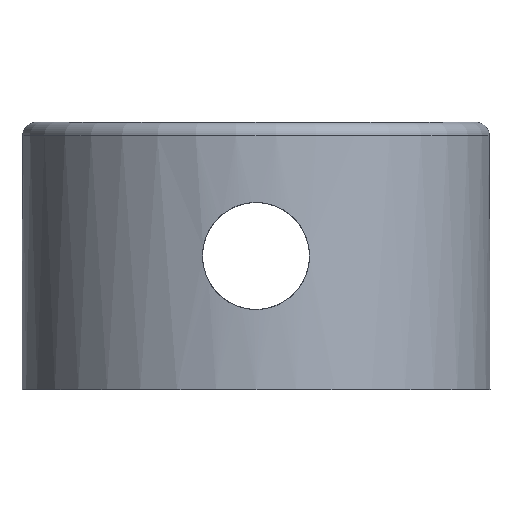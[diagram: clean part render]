
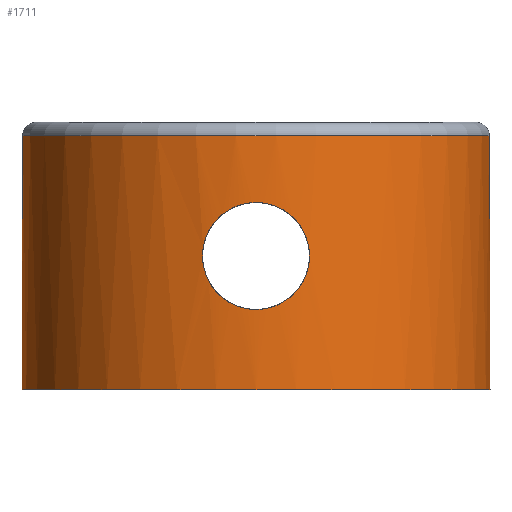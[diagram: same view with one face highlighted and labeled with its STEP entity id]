
A CAD part, front view. The second image highlights one B-rep face of the part: STEP entity #1711.
In plain terms, the highlighted cylindrical face has radius 35 mm (diameter 70 mm), a partial arc.
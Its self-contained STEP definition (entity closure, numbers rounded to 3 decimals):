
#49=FACE_BOUND('',#557,.T.);
#94=CYLINDRICAL_SURFACE('',#1883,35.);
#323=B_SPLINE_CURVE_WITH_KNOTS('',3,(#4069,#4070,#4071,#4072,#4073,#4074,
#4075,#4076,#4077,#4078),.UNSPECIFIED.,.F.,.F.,(4,1,1,1,1,1,1,4),(-18.584,
-17.897,-17.211,-16.524,-15.837,
-15.151,-14.464,-14.103),.UNSPECIFIED.);
#324=B_SPLINE_CURVE_WITH_KNOTS('',3,(#4081,#4082,#4083,#4084,#4085,#4086,
#4087,#4088,#4089,#4090),.UNSPECIFIED.,.F.,.F.,(4,1,1,1,1,1,1,4),(-18.258,
-17.897,-17.211,-16.524,-15.837,
-15.151,-14.464,-13.778),.UNSPECIFIED.);
#325=B_SPLINE_CURVE_WITH_KNOTS('',3,(#4093,#4094,#4095,#4096,#4097,#4098,
#4099,#4100,#4101,#4102,#4103,#4104,#4105,#4106,#4107,#4108,#4109,#4110),
 .UNSPECIFIED.,.F.,.F.,(4,2,2,2,2,2,2,2,4),(0.,0.303,0.605,
0.908,1.21,1.513,1.815,2.118,
2.42),.UNSPECIFIED.);
#326=B_SPLINE_CURVE_WITH_KNOTS('',3,(#4111,#4112,#4113,#4114,#4115,#4116,
#4117,#4118,#4119,#4120,#4121,#4122,#4123,#4124,#4125,#4126,#4127,#4128),
 .UNSPECIFIED.,.F.,.F.,(4,2,2,2,2,2,2,2,4),(2.42,2.723,
3.025,3.328,3.63,3.933,4.235,
4.538,4.84),.UNSPECIFIED.);
#436=FACE_OUTER_BOUND('',#556,.T.);
#556=EDGE_LOOP('',(#1414,#1415,#1416,#1417));
#557=EDGE_LOOP('',(#1418,#1419));
#697=CIRCLE('',#1880,35.);
#700=CIRCLE('',#1884,35.);
#838=VERTEX_POINT('',#4004);
#839=VERTEX_POINT('',#4006);
#841=VERTEX_POINT('',#4068);
#842=VERTEX_POINT('',#4079);
#843=VERTEX_POINT('',#4091);
#844=VERTEX_POINT('',#4092);
#1042=EDGE_CURVE('',#838,#839,#697,.T.);
#1049=EDGE_CURVE('',#841,#838,#323,.T.);
#1050=EDGE_CURVE('',#842,#841,#700,.T.);
#1051=EDGE_CURVE('',#839,#842,#324,.T.);
#1052=EDGE_CURVE('',#843,#844,#325,.T.);
#1053=EDGE_CURVE('',#844,#843,#326,.T.);
#1414=ORIENTED_EDGE('',*,*,#1042,.F.);
#1415=ORIENTED_EDGE('',*,*,#1049,.F.);
#1416=ORIENTED_EDGE('',*,*,#1050,.F.);
#1417=ORIENTED_EDGE('',*,*,#1051,.F.);
#1418=ORIENTED_EDGE('',*,*,#1052,.T.);
#1419=ORIENTED_EDGE('',*,*,#1053,.T.);
#1711=ADVANCED_FACE('',(#436,#49),#94,.T.);
#1880=AXIS2_PLACEMENT_3D('',#4007,#2192,#2193);
#1883=AXIS2_PLACEMENT_3D('',#4067,#2198,#2199);
#1884=AXIS2_PLACEMENT_3D('',#4080,#2200,#2201);
#2192=DIRECTION('center_axis',(0.,0.,1.));
#2193=DIRECTION('ref_axis',(0.,-1.,0.));
#2198=DIRECTION('center_axis',(0.,0.,1.));
#2199=DIRECTION('ref_axis',(0.,-1.,0.));
#2200=DIRECTION('center_axis',(0.,0.,-1.));
#2201=DIRECTION('ref_axis',(1.,0.,0.));
#4004=CARTESIAN_POINT('',(-15.181,31.536,18.));
#4006=CARTESIAN_POINT('',(15.181,31.536,18.));
#4007=CARTESIAN_POINT('Origin',(0.,0.,18.));
#4067=CARTESIAN_POINT('Origin',(0.,0.,0.));
#4068=CARTESIAN_POINT('',(-13.125,32.446,-20.));
#4069=CARTESIAN_POINT('Ctrl Pts',(-13.125,32.446,-20.));
#4070=CARTESIAN_POINT('Ctrl Pts',(-14.649,31.829,-18.694));
#4071=CARTESIAN_POINT('Ctrl Pts',(-17.367,30.478,-15.654));
#4072=CARTESIAN_POINT('Ctrl Pts',(-20.315,28.548,-10.03));
#4073=CARTESIAN_POINT('Ctrl Pts',(-21.941,27.272,-3.49));
#4074=CARTESIAN_POINT('Ctrl Pts',(-21.942,27.27,3.491));
#4075=CARTESIAN_POINT('Ctrl Pts',(-20.316,28.548,10.029));
#4076=CARTESIAN_POINT('Ctrl Pts',(-17.834,30.172,14.764));
#4077=CARTESIAN_POINT('Ctrl Pts',(-15.897,31.192,17.211));
#4078=CARTESIAN_POINT('Ctrl Pts',(-15.181,31.536,18.));
#4079=CARTESIAN_POINT('',(13.125,32.446,-20.));
#4080=CARTESIAN_POINT('Origin',(0.,0.,-20.));
#4081=CARTESIAN_POINT('Ctrl Pts',(15.181,31.536,18.));
#4082=CARTESIAN_POINT('Ctrl Pts',(15.897,31.192,17.211));
#4083=CARTESIAN_POINT('Ctrl Pts',(17.834,30.173,14.764));
#4084=CARTESIAN_POINT('Ctrl Pts',(20.315,28.548,10.03));
#4085=CARTESIAN_POINT('Ctrl Pts',(21.941,27.272,3.49));
#4086=CARTESIAN_POINT('Ctrl Pts',(21.942,27.27,-3.491));
#4087=CARTESIAN_POINT('Ctrl Pts',(20.316,28.548,-10.029));
#4088=CARTESIAN_POINT('Ctrl Pts',(17.367,30.478,-15.654));
#4089=CARTESIAN_POINT('Ctrl Pts',(14.649,31.829,-18.694));
#4090=CARTESIAN_POINT('Ctrl Pts',(13.125,32.446,-20.));
#4091=CARTESIAN_POINT('',(8.,-34.073,0.));
#4092=CARTESIAN_POINT('',(-8.,-34.073,0.));
#4093=CARTESIAN_POINT('Ctrl Pts',(8.,-34.073,0.));
#4094=CARTESIAN_POINT('Ctrl Pts',(8.,-34.073,-1.008));
#4095=CARTESIAN_POINT('Ctrl Pts',(7.798,-34.123,-2.081));
#4096=CARTESIAN_POINT('Ctrl Pts',(6.98,-34.299,-4.051));
#4097=CARTESIAN_POINT('Ctrl Pts',(6.365,-34.424,-4.949));
#4098=CARTESIAN_POINT('Ctrl Pts',(4.949,-34.656,-6.365));
#4099=CARTESIAN_POINT('Ctrl Pts',(4.051,-34.779,-6.98));
#4100=CARTESIAN_POINT('Ctrl Pts',(2.081,-34.952,-7.798));
#4101=CARTESIAN_POINT('Ctrl Pts',(1.008,-35.,-8.));
#4102=CARTESIAN_POINT('Ctrl Pts',(-1.008,-35.,-8.));
#4103=CARTESIAN_POINT('Ctrl Pts',(-2.081,-34.952,-7.798));
#4104=CARTESIAN_POINT('Ctrl Pts',(-4.051,-34.779,-6.98));
#4105=CARTESIAN_POINT('Ctrl Pts',(-4.949,-34.656,-6.365));
#4106=CARTESIAN_POINT('Ctrl Pts',(-6.365,-34.424,-4.949));
#4107=CARTESIAN_POINT('Ctrl Pts',(-6.98,-34.299,-4.051));
#4108=CARTESIAN_POINT('Ctrl Pts',(-7.798,-34.123,-2.081));
#4109=CARTESIAN_POINT('Ctrl Pts',(-8.,-34.073,-1.008));
#4110=CARTESIAN_POINT('Ctrl Pts',(-8.,-34.073,0.));
#4111=CARTESIAN_POINT('Ctrl Pts',(-8.,-34.073,0.));
#4112=CARTESIAN_POINT('Ctrl Pts',(-8.,-34.073,1.008));
#4113=CARTESIAN_POINT('Ctrl Pts',(-7.798,-34.123,2.081));
#4114=CARTESIAN_POINT('Ctrl Pts',(-6.98,-34.299,4.051));
#4115=CARTESIAN_POINT('Ctrl Pts',(-6.365,-34.424,4.949));
#4116=CARTESIAN_POINT('Ctrl Pts',(-4.949,-34.656,6.365));
#4117=CARTESIAN_POINT('Ctrl Pts',(-4.051,-34.779,6.98));
#4118=CARTESIAN_POINT('Ctrl Pts',(-2.081,-34.952,7.798));
#4119=CARTESIAN_POINT('Ctrl Pts',(-1.008,-35.,8.));
#4120=CARTESIAN_POINT('Ctrl Pts',(1.008,-35.,8.));
#4121=CARTESIAN_POINT('Ctrl Pts',(2.081,-34.952,7.798));
#4122=CARTESIAN_POINT('Ctrl Pts',(4.051,-34.779,6.98));
#4123=CARTESIAN_POINT('Ctrl Pts',(4.949,-34.656,6.365));
#4124=CARTESIAN_POINT('Ctrl Pts',(6.365,-34.424,4.949));
#4125=CARTESIAN_POINT('Ctrl Pts',(6.98,-34.299,4.051));
#4126=CARTESIAN_POINT('Ctrl Pts',(7.798,-34.123,2.081));
#4127=CARTESIAN_POINT('Ctrl Pts',(8.,-34.073,1.008));
#4128=CARTESIAN_POINT('Ctrl Pts',(8.,-34.073,0.));
